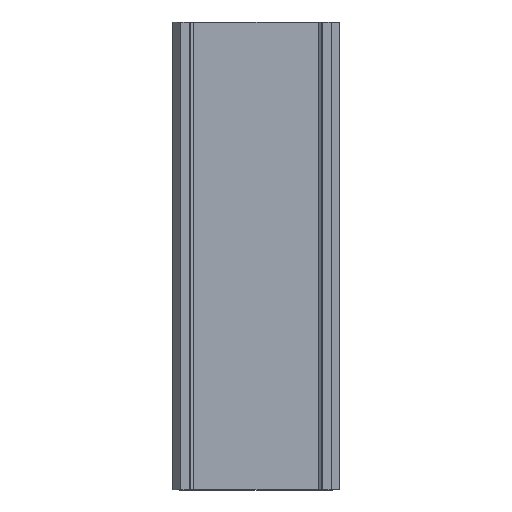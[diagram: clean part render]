
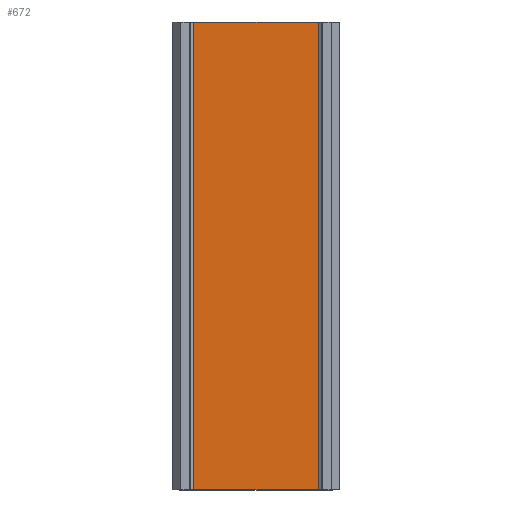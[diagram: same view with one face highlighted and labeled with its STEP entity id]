
A CAD part, top view. The second image highlights one B-rep face of the part: STEP entity #672.
In plain terms, the highlighted planar face has unit normal (0, 0, 1).
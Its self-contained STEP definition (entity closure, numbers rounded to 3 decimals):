
#50 = PLANE('',#51);
#51 = AXIS2_PLACEMENT_3D('',#52,#53,#54);
#52 = CARTESIAN_POINT('',(-144.14,104.,9.9));
#53 = DIRECTION('',(0.,-1.,0.));
#54 = DIRECTION('',(0.,0.,-1.));
#215 = VERTEX_POINT('',#216);
#216 = CARTESIAN_POINT('',(-110.21,104.,-11.3));
#230 = PLANE('',#231);
#231 = AXIS2_PLACEMENT_3D('',#232,#233,#234);
#232 = CARTESIAN_POINT('',(-111.523,0.,-10.25));
#233 = DIRECTION('',(0.625,0.,0.781));
#234 = DIRECTION('',(0.781,0.,-0.625));
#242 = EDGE_CURVE('',#243,#215,#245,.T.);
#243 = VERTEX_POINT('',#244);
#244 = CARTESIAN_POINT('',(-92.07,104.,-11.3));
#245 = SURFACE_CURVE('',#246,(#250,#257),.PCURVE_S1.);
#246 = LINE('',#247,#248);
#247 = CARTESIAN_POINT('',(-128.175,104.,-11.3));
#248 = VECTOR('',#249,1.);
#249 = DIRECTION('',(-1.,0.,0.));
#250 = PCURVE('',#50,#251);
#251 = DEFINITIONAL_REPRESENTATION('',(#252),#256);
#252 = LINE('',#253,#254);
#253 = CARTESIAN_POINT('',(21.2,15.965));
#254 = VECTOR('',#255,1.);
#255 = DIRECTION('',(0.,-1.));
#256 = ( GEOMETRIC_REPRESENTATION_CONTEXT(2) 
PARAMETRIC_REPRESENTATION_CONTEXT() REPRESENTATION_CONTEXT('2D SPACE',''
  ) );
#257 = PCURVE('',#258,#263);
#258 = PLANE('',#259);
#259 = AXIS2_PLACEMENT_3D('',#260,#261,#262);
#260 = CARTESIAN_POINT('',(-112.21,0.,-11.3));
#261 = DIRECTION('',(0.,0.,1.));
#262 = DIRECTION('',(1.,0.,0.));
#263 = DEFINITIONAL_REPRESENTATION('',(#264),#268);
#264 = LINE('',#265,#266);
#265 = CARTESIAN_POINT('',(-15.965,104.));
#266 = VECTOR('',#267,1.);
#267 = DIRECTION('',(-1.,0.));
#268 = ( GEOMETRIC_REPRESENTATION_CONTEXT(2) 
PARAMETRIC_REPRESENTATION_CONTEXT() REPRESENTATION_CONTEXT('2D SPACE',''
  ) );
#286 = PLANE('',#287);
#287 = AXIS2_PLACEMENT_3D('',#288,#289,#290);
#288 = CARTESIAN_POINT('',(-92.07,0.,-11.3));
#289 = DIRECTION('',(-0.625,0.,0.781));
#290 = DIRECTION('',(0.781,0.,0.625));
#591 = PLANE('',#592);
#592 = AXIS2_PLACEMENT_3D('',#593,#594,#595);
#593 = CARTESIAN_POINT('',(-144.14,36.,9.9));
#594 = DIRECTION('',(0.,-1.,0.));
#595 = DIRECTION('',(0.,0.,-1.));
#628 = EDGE_CURVE('',#629,#243,#631,.T.);
#629 = VERTEX_POINT('',#630);
#630 = CARTESIAN_POINT('',(-92.07,36.,-11.3));
#631 = SURFACE_CURVE('',#632,(#636,#643),.PCURVE_S1.);
#632 = LINE('',#633,#634);
#633 = CARTESIAN_POINT('',(-92.07,0.,-11.3));
#634 = VECTOR('',#635,1.);
#635 = DIRECTION('',(0.,1.,0.));
#636 = PCURVE('',#286,#637);
#637 = DEFINITIONAL_REPRESENTATION('',(#638),#642);
#638 = LINE('',#639,#640);
#639 = CARTESIAN_POINT('',(0.,0.));
#640 = VECTOR('',#641,1.);
#641 = DIRECTION('',(0.,1.));
#642 = ( GEOMETRIC_REPRESENTATION_CONTEXT(2) 
PARAMETRIC_REPRESENTATION_CONTEXT() REPRESENTATION_CONTEXT('2D SPACE',''
  ) );
#643 = PCURVE('',#258,#644);
#644 = DEFINITIONAL_REPRESENTATION('',(#645),#649);
#645 = LINE('',#646,#647);
#646 = CARTESIAN_POINT('',(20.14,0.));
#647 = VECTOR('',#648,1.);
#648 = DIRECTION('',(0.,1.));
#649 = ( GEOMETRIC_REPRESENTATION_CONTEXT(2) 
PARAMETRIC_REPRESENTATION_CONTEXT() REPRESENTATION_CONTEXT('2D SPACE',''
  ) );
#672 = ADVANCED_FACE('',(#673),#258,.T.);
#673 = FACE_BOUND('',#674,.T.);
#674 = EDGE_LOOP('',(#675,#676,#699,#720));
#675 = ORIENTED_EDGE('',*,*,#242,.T.);
#676 = ORIENTED_EDGE('',*,*,#677,.F.);
#677 = EDGE_CURVE('',#678,#215,#680,.T.);
#678 = VERTEX_POINT('',#679);
#679 = CARTESIAN_POINT('',(-110.21,36.,-11.3));
#680 = SURFACE_CURVE('',#681,(#685,#692),.PCURVE_S1.);
#681 = LINE('',#682,#683);
#682 = CARTESIAN_POINT('',(-110.21,0.,-11.3));
#683 = VECTOR('',#684,1.);
#684 = DIRECTION('',(0.,1.,0.));
#685 = PCURVE('',#258,#686);
#686 = DEFINITIONAL_REPRESENTATION('',(#687),#691);
#687 = LINE('',#688,#689);
#688 = CARTESIAN_POINT('',(2.,0.));
#689 = VECTOR('',#690,1.);
#690 = DIRECTION('',(0.,1.));
#691 = ( GEOMETRIC_REPRESENTATION_CONTEXT(2) 
PARAMETRIC_REPRESENTATION_CONTEXT() REPRESENTATION_CONTEXT('2D SPACE',''
  ) );
#692 = PCURVE('',#230,#693);
#693 = DEFINITIONAL_REPRESENTATION('',(#694),#698);
#694 = LINE('',#695,#696);
#695 = CARTESIAN_POINT('',(1.681,0.));
#696 = VECTOR('',#697,1.);
#697 = DIRECTION('',(0.,1.));
#698 = ( GEOMETRIC_REPRESENTATION_CONTEXT(2) 
PARAMETRIC_REPRESENTATION_CONTEXT() REPRESENTATION_CONTEXT('2D SPACE',''
  ) );
#699 = ORIENTED_EDGE('',*,*,#700,.F.);
#700 = EDGE_CURVE('',#629,#678,#701,.T.);
#701 = SURFACE_CURVE('',#702,(#706,#713),.PCURVE_S1.);
#702 = LINE('',#703,#704);
#703 = CARTESIAN_POINT('',(-128.175,36.,-11.3));
#704 = VECTOR('',#705,1.);
#705 = DIRECTION('',(-1.,0.,0.));
#706 = PCURVE('',#258,#707);
#707 = DEFINITIONAL_REPRESENTATION('',(#708),#712);
#708 = LINE('',#709,#710);
#709 = CARTESIAN_POINT('',(-15.965,36.));
#710 = VECTOR('',#711,1.);
#711 = DIRECTION('',(-1.,0.));
#712 = ( GEOMETRIC_REPRESENTATION_CONTEXT(2) 
PARAMETRIC_REPRESENTATION_CONTEXT() REPRESENTATION_CONTEXT('2D SPACE',''
  ) );
#713 = PCURVE('',#591,#714);
#714 = DEFINITIONAL_REPRESENTATION('',(#715),#719);
#715 = LINE('',#716,#717);
#716 = CARTESIAN_POINT('',(21.2,15.965));
#717 = VECTOR('',#718,1.);
#718 = DIRECTION('',(0.,-1.));
#719 = ( GEOMETRIC_REPRESENTATION_CONTEXT(2) 
PARAMETRIC_REPRESENTATION_CONTEXT() REPRESENTATION_CONTEXT('2D SPACE',''
  ) );
#720 = ORIENTED_EDGE('',*,*,#628,.T.);
